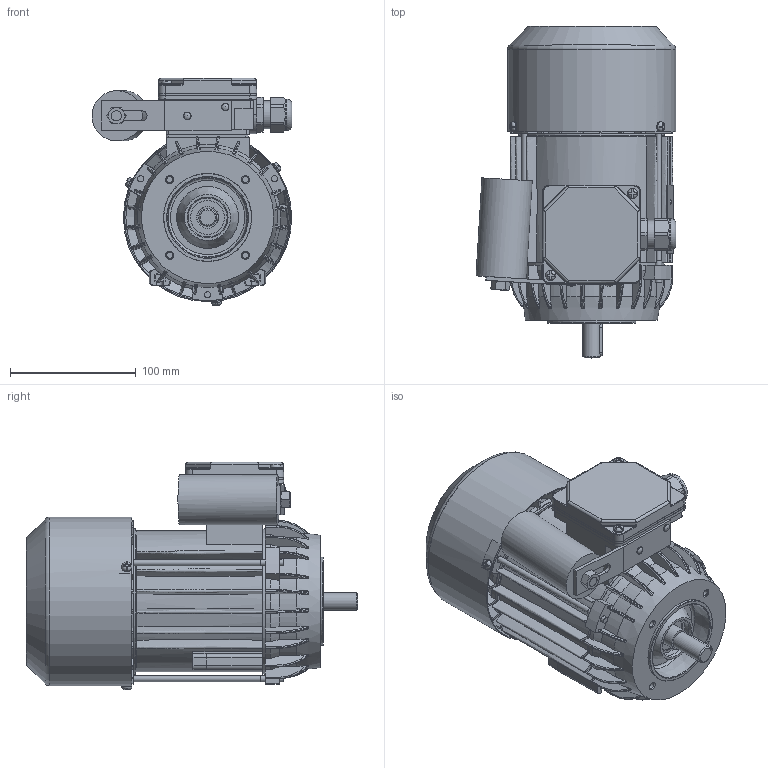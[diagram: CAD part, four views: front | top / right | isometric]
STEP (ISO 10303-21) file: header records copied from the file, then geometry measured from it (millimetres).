
FILE_DESCRIPTION(/* description */ ('Unknown'),/* implementation_level */ '2;1');
FILE_NAME(/* name */ '3SSIEK71-4A2',/* time_stamp */ '2024-06-17T12:17:40+02:00',/* author */ ('Unknown'),/* organization */ ('Unknown'),/* preprocessor_version */ 'ST-DEVELOPER v16.7',/* originating_system */ 'Solid Edge',/* authorisation */ 'Unknown');
FILE_SCHEMA (('AUTOMOTIVE_DESIGN {1 0 10303 214 3 1 1}'));
Products named in the file (1): Czêœæ25
Bounding box: 158.73 x 263.49 x 180.57 mm (x, y, z)
Volume: 747412.4 mm3; surface area: 434560.8 mm2
Topology: 2 solids, 2 shells, 3102 faces, 8591 edges, 5518 vertices
Faces by surface type: plane 1405, cylinder 815, bspline 372, cone 256, torus 228, sphere 26
Full cylindrical faces by diameter (mm): 3 x1, 3.7 x4, 4 x14, 4.3 x6, 4.5 x2, 4.6 x3, 4.8 x2, 4.917 x4, 5 x8, 5.5 x3, 6 x2, 6.5 x5, 7 x1, 8 x15, 9 x1, 13 x1, 13.999 x1, 15.898 x1, 16.098 x1, 16.498 x1, 16.998 x2, 17.4 x2, 21.998 x2, 22.3 x1, 22.498 x1, 23.098 x1, 23.998 x1, 24.496 x4, 25 x1, 27 x1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
Entity records: 130248 total; most frequent: CARTESIAN_POINT 34196, ORIENTED_EDGE 16388, DIRECTION 14234, EDGE_CURVE 8194, VERTEX_POINT 5373, AXIS2_PLACEMENT_3D 5283, LINE 3668, VECTOR 3668
